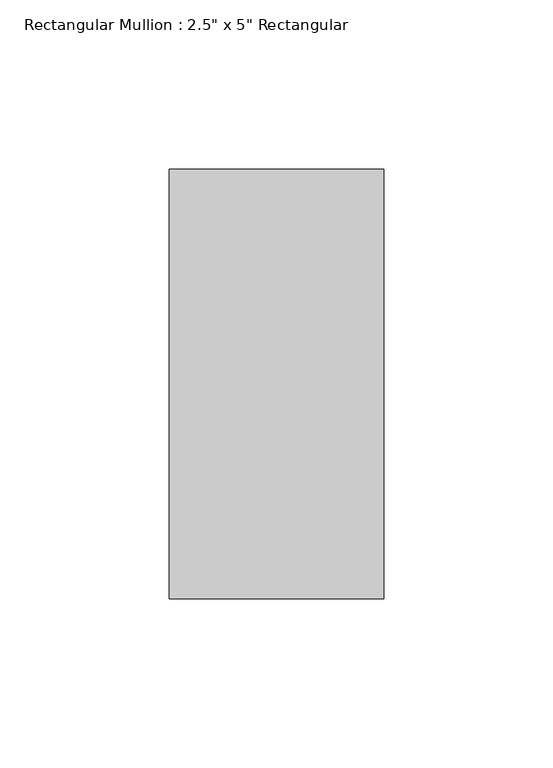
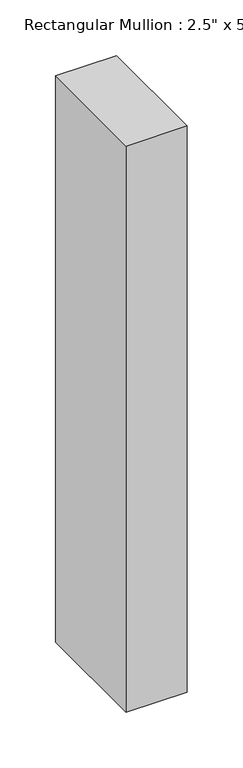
"""IFC4 building model written with IfcOpenShell, lengths in millimetres: member geometry."""

from ifc_helpers import new_model, si_unit, frame, origin, place, context, project, spatial, polyline, outline, extrude, source, transform, mapped, element, save


def member_21124f0b(model_context):
    return source(origin(), model_context, "Body", "SweptSolid", [
        extrude(outline(polyline([(31.75, 63.5), (31.75, -63.5), (-31.75, -63.5), (-31.75, 63.5), (31.75, 63.5)])), frame((0.0, 0.0, -621.6), z_axis=(0.0, 0.0, 1.0), x_axis=(1.0, 0.0, 0.0)), (0.0, 0.0, 1.0), 621.6),
    ])


if __name__ == "__main__":
    model = new_model("IFC4")
    model_context = context("Model", 3, world=origin())
    ifc_project = project(units=[si_unit("LENGTHUNIT", "METRE", prefix="MILLI")], contexts=[model_context])
    site = spatial("IfcSite", under=ifc_project)
    building = spatial("IfcBuilding", under=site)
    placement = place(None, origin())
    member_shape = member_21124f0b(model_context)
    element("IfcMember", 1, ObjectType="Rectangular Mullion : 2.5\" x 5\" Rectangular", at=placement, inside=building, context=model_context, shape_type="MappedRepresentation", body=[
        mapped(member_shape, transform((0.0, 0.0, 0.0), x_axis=(1.0, 0.0, 0.0), y_axis=(0.0, 1.0, 0.0), z_axis=(0.0, 0.0, 1.0))),
    ])
    save(model, "model.ifc")
